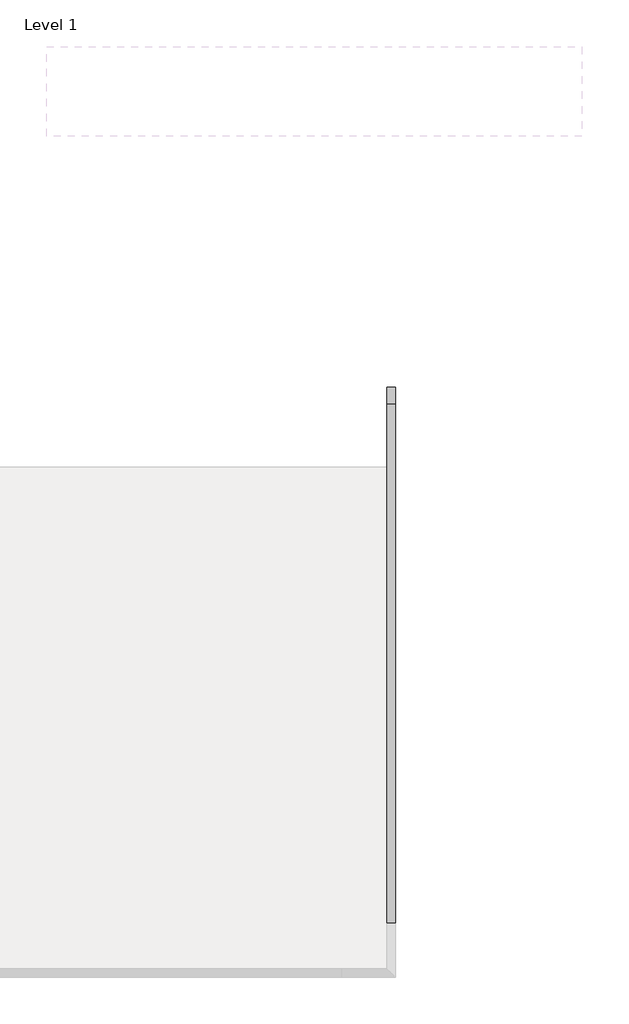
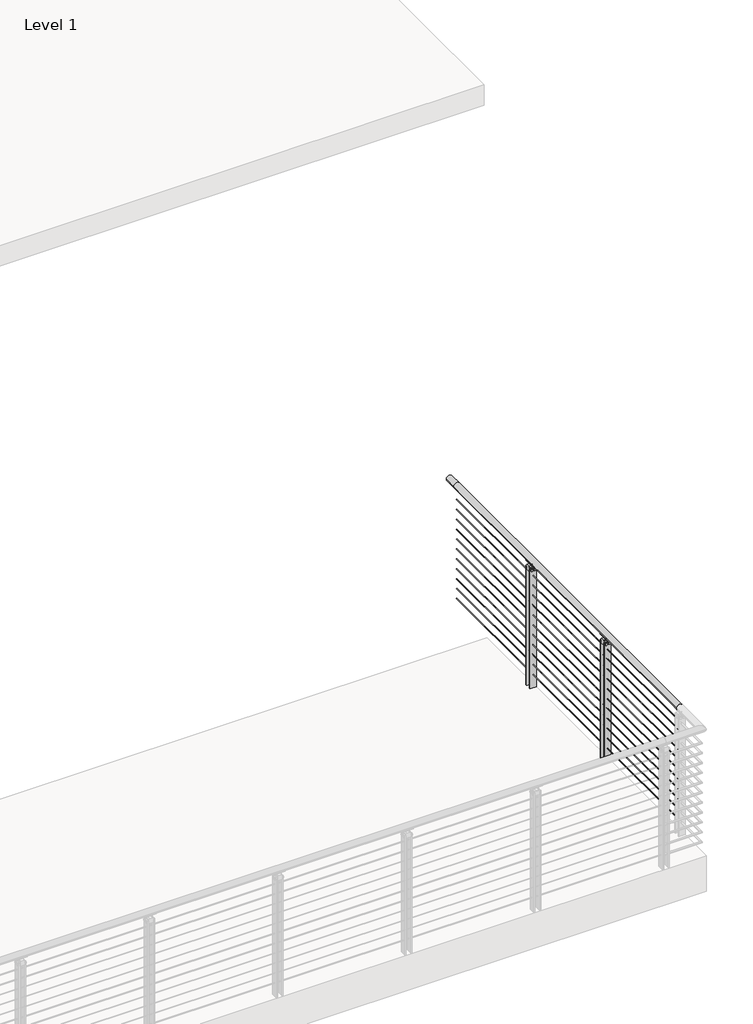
# One storey, part 19 of 36: 1 railing.
"""IFC4 building model written with IfcOpenShell, lengths in millimetres."""

from ifc_helpers import new_model, si_unit, point, frame, frame_2d, origin, origin_with_axes, place, context, project, spatial, polyline, circle_curve, trimmed, segment, composite_curve, outline, extrude, element, save
from ifc_brep_helpers import plane_surface, cylinder_surface, revolved_surface, advanced_brep

model = new_model("IFC4")

# Units and contexts
model_context = context("Model", 3, world=origin())
ifc_project = project(units=[si_unit("LENGTHUNIT", "METRE", prefix="MILLI")], contexts=[model_context])

# Site, building, storey
site = spatial("IfcSite", under=ifc_project)
building = spatial("IfcBuilding", under=site)
storey = spatial("IfcBuildingStorey", under=building, Name="Level 1", Elevation=0.0)

# Railing
placement = place(None, origin())
element("IfcRailing", 1, ObjectType="VIVA-BLADE-Cable-Weld Mount-Straight", at=placement, inside=storey, context=model_context, shape_type="SolidModel", body=[
    advanced_brep(
    [(45346.7868903, -56866.9334719, 1054.1), (45295.9868903, -56866.9334719, 1054.1), (45346.7868903, -53818.9334719, 1054.1), (45295.9868903, -53818.9334719, 1054.1), (45346.7868903, -53717.3334719, 1054.1), (45295.9868903, -53717.3334719, 1054.1)],
    [
        (0, 1, circle_curve(frame((45321.3868903, -56866.9334719, 1054.1), z_axis=(0.0, -1.0, 0.0), x_axis=(-1.0, 0.0, 0.0)), 25.4)),
        (1, 0, circle_curve(frame((45321.3868903, -56866.9334719, 1054.1), z_axis=(0.0, -1.0, 0.0), x_axis=(-1.0, 0.0, 0.0)), 25.4)),
        (0, 2),
        (2, 3, circle_curve(frame((45321.3868903, -53818.9334719, 1054.1), z_axis=(0.0, -1.0, 0.0), x_axis=(-1.0, 0.0, 0.0)), 25.4)),
        (3, 1),
        (3, 2, circle_curve(frame((45321.3868903, -53818.9334719, 1054.1), z_axis=(0.0, -1.0, 0.0), x_axis=(-1.0, 0.0, 0.0)), 25.4)),
        (4, 5, circle_curve(frame((45321.3868903, -53717.3334719, 1054.1), z_axis=(0.0, 1.0, 0.0), x_axis=(-1.0, 0.0, 0.0)), 25.4)),
        (5, 4, circle_curve(frame((45321.3868903, -53717.3334719, 1054.1), z_axis=(0.0, 1.0, 0.0), x_axis=(-1.0, 0.0, 0.0)), 25.4)),
        (2, 4),
        (5, 3),
    ],
    [
        plane_surface(frame((45321.3868903, -56866.9334719, 1079.5), z_axis=(0.0, -1.0, 0.0), x_axis=(0.0, 0.0, 1.0))),
        cylinder_surface(frame((45321.3868903, -56866.9334719, 1054.1), z_axis=(0.0, -1.0, 0.0), x_axis=(-1.0, 0.0, 0.0)), 25.4),
        plane_surface(frame((45321.3868903, -53717.3334719, 1079.5), z_axis=(0.0, 1.0, 0.0), x_axis=(0.0, 0.0, 1.0))),
        cylinder_surface(frame((45321.3868903, -53818.9334719, 1054.1), z_axis=(0.0, -1.0, 0.0), x_axis=(-1.0, 0.0, 0.0)), 25.4),
    ],
    [
        (0, [[1, 2]]),
        (1, [[-1, 3, 4, 5]]),
        (1, [[-2, -5, 6, -3]]),
        (2, [[7, 8]]),
        (3, [[-4, 9, -8, 10]]),
        (3, [[-6, -10, -7, -9]]),
    ],
),
    extrude(outline(composite_curve([segment(trimmed(circle_curve(frame_2d((937.4124, 45321.3868903)), 2.3876), [point((937.4124, 45318.9992903))], [point((937.4124, 45323.7744903))], False, "CARTESIAN"), True, "CONTINUOUS"), segment(trimmed(circle_curve(frame_2d((937.4124, 45321.3868903)), 2.3876), [point((937.4124, 45323.7744903))], [point((937.4124, 45318.9992903))], False, "CARTESIAN"), True, "CONTINUOUS")], self_intersect=False)), frame((0.0, -56866.9334719, 0.0), z_axis=(0.0, 1.0, 0.0), x_axis=(0.0, 0.0, 1.0)), (0.0, 0.0, 1.0), 3048.0),
    extrude(outline(composite_curve([segment(trimmed(circle_curve(frame_2d((854.8624, 45321.3868903)), 2.3876), [point((854.8624, 45318.9992903))], [point((854.8624, 45323.7744903))], False, "CARTESIAN"), True, "CONTINUOUS"), segment(trimmed(circle_curve(frame_2d((854.8624, 45321.3868903)), 2.3876), [point((854.8624, 45323.7744903))], [point((854.8624, 45318.9992903))], False, "CARTESIAN"), True, "CONTINUOUS")], self_intersect=False)), frame((0.0, -56866.9334719, 0.0), z_axis=(0.0, 1.0, 0.0), x_axis=(0.0, 0.0, 1.0)), (0.0, 0.0, 1.0), 3048.0),
    extrude(outline(composite_curve([segment(trimmed(circle_curve(frame_2d((772.3124, 45321.3868903)), 2.3876), [point((772.3124, 45318.9992903))], [point((772.3124, 45323.7744903))], False, "CARTESIAN"), True, "CONTINUOUS"), segment(trimmed(circle_curve(frame_2d((772.3124, 45321.3868903)), 2.3876), [point((772.3124, 45323.7744903))], [point((772.3124, 45318.9992903))], False, "CARTESIAN"), True, "CONTINUOUS")], self_intersect=False)), frame((0.0, -56866.9334719, 0.0), z_axis=(0.0, 1.0, 0.0), x_axis=(0.0, 0.0, 1.0)), (0.0, 0.0, 1.0), 3048.0),
    extrude(outline(composite_curve([segment(trimmed(circle_curve(frame_2d((689.7624, 45321.3868903)), 2.3876), [point((689.7624, 45318.9992903))], [point((689.7624, 45323.7744903))], False, "CARTESIAN"), True, "CONTINUOUS"), segment(trimmed(circle_curve(frame_2d((689.7624, 45321.3868903)), 2.3876), [point((689.7624, 45323.7744903))], [point((689.7624, 45318.9992903))], False, "CARTESIAN"), True, "CONTINUOUS")], self_intersect=False)), frame((0.0, -56866.9334719, 0.0), z_axis=(0.0, 1.0, 0.0), x_axis=(0.0, 0.0, 1.0)), (0.0, 0.0, 1.0), 3048.0),
    extrude(outline(composite_curve([segment(trimmed(circle_curve(frame_2d((607.2124, 45321.3868903)), 2.3876), [point((607.2124, 45318.9992903))], [point((607.2124, 45323.7744903))], False, "CARTESIAN"), True, "CONTINUOUS"), segment(trimmed(circle_curve(frame_2d((607.2124, 45321.3868903)), 2.3876), [point((607.2124, 45323.7744903))], [point((607.2124, 45318.9992903))], False, "CARTESIAN"), True, "CONTINUOUS")], self_intersect=False)), frame((0.0, -56866.9334719, 0.0), z_axis=(0.0, 1.0, 0.0), x_axis=(0.0, 0.0, 1.0)), (0.0, 0.0, 1.0), 3048.0),
    extrude(outline(composite_curve([segment(trimmed(circle_curve(frame_2d((524.6624, 45321.3868903)), 2.3876), [point((524.6624, 45318.9992903))], [point((524.6624, 45323.7744903))], False, "CARTESIAN"), True, "CONTINUOUS"), segment(trimmed(circle_curve(frame_2d((524.6624, 45321.3868903)), 2.3876), [point((524.6624, 45323.7744903))], [point((524.6624, 45318.9992903))], False, "CARTESIAN"), True, "CONTINUOUS")], self_intersect=False)), frame((0.0, -56866.9334719, 0.0), z_axis=(0.0, 1.0, 0.0), x_axis=(0.0, 0.0, 1.0)), (0.0, 0.0, 1.0), 3048.0),
    extrude(outline(composite_curve([segment(trimmed(circle_curve(frame_2d((442.1124, 45321.3868903)), 2.3876), [point((442.1124, 45318.9992903))], [point((442.1124, 45323.7744903))], False, "CARTESIAN"), True, "CONTINUOUS"), segment(trimmed(circle_curve(frame_2d((442.1124, 45321.3868903)), 2.3876), [point((442.1124, 45323.7744903))], [point((442.1124, 45318.9992903))], False, "CARTESIAN"), True, "CONTINUOUS")], self_intersect=False)), frame((0.0, -56866.9334719, 0.0), z_axis=(0.0, 1.0, 0.0), x_axis=(0.0, 0.0, 1.0)), (0.0, 0.0, 1.0), 3048.0),
    extrude(outline(composite_curve([segment(trimmed(circle_curve(frame_2d((359.5624, 45321.3868903)), 2.3876), [point((359.5624, 45318.9992903))], [point((359.5624, 45323.7744903))], False, "CARTESIAN"), True, "CONTINUOUS"), segment(trimmed(circle_curve(frame_2d((359.5624, 45321.3868903)), 2.3876), [point((359.5624, 45323.7744903))], [point((359.5624, 45318.9992903))], False, "CARTESIAN"), True, "CONTINUOUS")], self_intersect=False)), frame((0.0, -56866.9334719, 0.0), z_axis=(0.0, 1.0, 0.0), x_axis=(0.0, 0.0, 1.0)), (0.0, 0.0, 1.0), 3048.0),
    extrude(outline(composite_curve([segment(trimmed(circle_curve(frame_2d((277.0124, 45321.3868903)), 2.3876), [point((277.0124, 45318.9992903))], [point((277.0124, 45323.7744903))], False, "CARTESIAN"), True, "CONTINUOUS"), segment(trimmed(circle_curve(frame_2d((277.0124, 45321.3868903)), 2.3876), [point((277.0124, 45323.7744903))], [point((277.0124, 45318.9992903))], False, "CARTESIAN"), True, "CONTINUOUS")], self_intersect=False)), frame((0.0, -56866.9334719, 0.0), z_axis=(0.0, 1.0, 0.0), x_axis=(0.0, 0.0, 1.0)), (0.0, 0.0, 1.0), 3048.0),
    extrude(outline(composite_curve([segment(trimmed(circle_curve(frame_2d((194.4624, 45321.3868903)), 2.3876), [point((194.4624, 45318.9992903))], [point((194.4624, 45323.7744903))], False, "CARTESIAN"), True, "CONTINUOUS"), segment(trimmed(circle_curve(frame_2d((194.4624, 45321.3868903)), 2.3876), [point((194.4624, 45323.7744903))], [point((194.4624, 45318.9992903))], False, "CARTESIAN"), True, "CONTINUOUS")], self_intersect=False)), frame((0.0, -56866.9334719, 0.0), z_axis=(0.0, 1.0, 0.0), x_axis=(0.0, 0.0, 1.0)), (0.0, 0.0, 1.0), 3048.0),
    extrude(outline(composite_curve([segment(trimmed(circle_curve(frame_2d((111.9124, 45321.3868903)), 2.3876), [point((111.9124, 45318.9992903))], [point((111.9124, 45323.7744903))], False, "CARTESIAN"), True, "CONTINUOUS"), segment(trimmed(circle_curve(frame_2d((111.9124, 45321.3868903)), 2.3876), [point((111.9124, 45323.7744903))], [point((111.9124, 45318.9992903))], False, "CARTESIAN"), True, "CONTINUOUS")], self_intersect=False)), frame((0.0, -56866.9334719, 0.0), z_axis=(0.0, 1.0, 0.0), x_axis=(0.0, 0.0, 1.0)), (0.0, 0.0, 1.0), 3048.0),
    advanced_brep(
    [(45308.6267667, -54789.6960719, 1032.0967655), (45333.4988312, -54789.6960719, 1031.9535285), (45336.3077615, -54789.6960719, 1027.1267745), (45304.7908693, -54789.6960719, 1027.707533), (45308.6267667, -54880.1708719, 1032.0967655), (45304.7908693, -54880.1708719, 1027.707533), (45336.4215549, -54880.1708719, 1027.1893964), (45333.5858033, -54880.1708719, 1032.0018447)],
    [
        (0, 1, circle_curve(frame((45321.1905696, -54789.6960719, 1054.2115898), z_axis=(0.0, -1.0, 0.0), x_axis=(-1.0, 0.0, 0.0)), 25.4345159)),
        (1, 2, circle_curve(frame((45334.8304565, -54789.6960719, 1029.4993599), z_axis=(0.0, 1.0, 0.0), x_axis=(-1.0, 0.0, 0.0)), 2.7949225)),
        (2, 3, circle_curve(frame((45321.0571065, -54789.6960719, 1054.9742164), z_axis=(0.0, 1.0, 0.0), x_axis=(-1.0, 0.0, 0.0)), 31.75)),
        (3, 0, circle_curve(frame((45307.079209, -54789.6960719, 1029.5784521), z_axis=(0.0, 1.0, 0.0), x_axis=(-1.0, 0.0, 0.0)), 2.9558141)),
        (4, 5, circle_curve(frame((45307.079209, -54880.1708719, 1029.5784521), z_axis=(0.0, -1.0, 0.0), x_axis=(-1.0, 0.0, 0.0)), 2.9558141)),
        (5, 6, circle_curve(frame((45321.0571065, -54880.1708719, 1054.9742164), z_axis=(0.0, -1.0, 0.0), x_axis=(-1.0, 0.0, 0.0)), 31.75)),
        (6, 7, circle_curve(frame((45334.8304565, -54880.1708719, 1029.4993599), z_axis=(0.0, -1.0, 0.0), x_axis=(-1.0, 0.0, 0.0)), 2.7949225)),
        (7, 4, circle_curve(frame((45321.1905696, -54880.1708719, 1054.2115898), z_axis=(0.0, 1.0, 0.0), x_axis=(-1.0, 0.0, 0.0)), 25.4345159)),
        (0, 4),
        (7, 1),
        (6, 2),
        (5, 3),
    ],
    [
        plane_surface(frame((45295.7560537, -54789.6960719, 1054.2115898), z_axis=(0.0, 1.0, 0.0), x_axis=(0.0, 0.0, -1.0))),
        plane_surface(frame((45295.7560537, -54880.1708719, 1054.2115898), z_axis=(0.0, -1.0, 0.0), x_axis=(0.0, 0.0, 1.0))),
        revolved_surface(polyline([(45295.7560537, -54880.1708719, 1054.2115898), (45295.7560537, -54789.6960719, 1054.2115898)]), (45321.1905696, -54880.1708719, 1054.2115898), (0.0, -1.0, 0.0)),
        cylinder_surface(frame((45334.8304565, -54880.1708719, 1029.4993599), z_axis=(0.0, 1.0, 0.0), x_axis=(-1.0, 0.0, 0.0)), 2.7949225),
        cylinder_surface(frame((45321.0571065, -54880.1708719, 1054.9742164), z_axis=(0.0, 1.0, 0.0), x_axis=(-1.0, 0.0, 0.0)), 31.75),
        cylinder_surface(frame((45307.079209, -54880.1708719, 1029.5784521), z_axis=(0.0, 1.0, 0.0), x_axis=(-1.0, 0.0, 0.0)), 2.9558141),
    ],
    [
        (0, [[1, 2, 3, 4]]),
        (1, [[5, 6, 7, 8]]),
        (2, [[-1, 9, -8, 10]]),
        (3, [[-2, -10, -7, 11]]),
        (4, [[-3, -11, -6, 12]]),
        (5, [[-4, -12, -5, -9]]),
    ],
),
    advanced_brep(
    [(45318.8468903, -54822.2334719, 1014.4125), (45318.8468903, -54847.6334719, 1014.4125), (45318.8468903, -54862.0013867, 1028.7804149), (45318.8468903, -54807.865557, 1028.7804149), (45323.9268903, -54822.2334719, 1014.4125), (45323.9268903, -54807.865557, 1028.7804149), (45323.9268903, -54862.0013867, 1028.7804149), (45323.9268903, -54847.6334719, 1014.4125)],
    [
        (0, 1),
        (1, 2, circle_curve(frame((45318.8468903, -54862.0013867, 1014.4125), z_axis=(1.0, 0.0, 0.0), x_axis=(0.0, -1.0, 0.0)), 14.3679149)),
        (2, 3),
        (3, 0, circle_curve(frame((45318.8468903, -54807.865557, 1014.4125), z_axis=(1.0, 0.0, 0.0), x_axis=(0.0, -1.0, 0.0)), 14.3679149)),
        (4, 5, circle_curve(frame((45323.9268903, -54807.865557, 1014.4125), z_axis=(-1.0, 0.0, 0.0), x_axis=(0.0, -1.0, 0.0)), 14.3679149)),
        (5, 6),
        (6, 7, circle_curve(frame((45323.9268903, -54862.0013867, 1014.4125), z_axis=(-1.0, 0.0, 0.0), x_axis=(0.0, -1.0, 0.0)), 14.3679149)),
        (7, 4),
        (0, 4),
        (7, 1),
        (6, 2),
        (5, 3),
    ],
    [
        plane_surface(frame((45318.8468903, -54847.6334719, 1014.4125), z_axis=(-1.0, 0.0, 0.0), x_axis=(0.0, -1.0, 0.0))),
        plane_surface(frame((45323.9268903, -54847.6334719, 1014.4125), z_axis=(1.0, 0.0, 0.0), x_axis=(0.0, 1.0, 0.0))),
        plane_surface(frame((45318.8468903, -54822.2334719, 1014.4125), z_axis=(0.0, 0.0, -1.0), x_axis=(1.0, 0.0, 0.0))),
        revolved_surface(polyline([(45323.9268903, -54876.3693016, 1014.4125), (45318.8468903, -54876.3693016, 1014.4125)]), (45323.9268903, -54862.0013867, 1014.4125), (1.0, 0.0, 0.0)),
        plane_surface(frame((45318.8468903, -54862.0013867, 1028.7804149), z_axis=(0.0, 0.0, 1.0), x_axis=(1.0, 0.0, 0.0))),
        revolved_surface(polyline([(45323.9268903, -54822.2334719, 1014.4125), (45318.8468903, -54822.2334719, 1014.4125)]), (45323.9268903, -54807.865557, 1014.4125), (1.0, 0.0, 0.0)),
    ],
    [
        (0, [[1, 2, 3, 4]]),
        (1, [[5, 6, 7, 8]]),
        (2, [[-1, 9, -8, 10]]),
        (3, [[-2, -10, -7, 11]]),
        (4, [[-3, -11, -6, 12]]),
        (5, [[-4, -12, -5, -9]]),
    ],
),
    extrude(outline(polyline([(45295.9870937, -54862.0083075), (45295.9870937, -54853.9834719), (45346.7894183, -54853.9834719), (45346.7894183, -54862.0083075), (45295.9870937, -54862.0083075)])), origin_with_axes(), (0.0, 0.0, 1.0), 996.95),
    extrude(outline(composite_curve([segment(trimmed(circle_curve(frame_2d((986.0416929, 45334.0893673)), 8.89), [point((986.0416929, 45342.9793673))], [point((986.0416929, 45325.1993673))], False, "CARTESIAN"), True, "CONTINUOUS"), segment(trimmed(circle_curve(frame_2d((986.0416929, 45334.0893673)), 8.89), [point((986.0416929, 45325.1993673))], [point((986.0416929, 45342.9793673))], False, "CARTESIAN"), True, "CONTINUOUS")], self_intersect=False)), frame((0.0, -54866.6834719, 0.0), z_axis=(0.0, 1.0, 0.0), x_axis=(0.0, 0.0, 1.0)), (0.0, 0.0, 1.0), 63.4880631),
    extrude(outline(composite_curve([segment(trimmed(circle_curve(frame_2d((986.0416929, 45308.6894693)), 8.89), [point((986.0416929, 45317.5794693))], [point((986.0416929, 45299.7994693))], False, "CARTESIAN"), True, "CONTINUOUS"), segment(trimmed(circle_curve(frame_2d((986.0416929, 45308.6894693)), 8.89), [point((986.0416929, 45299.7994693))], [point((986.0416929, 45317.5794693))], False, "CARTESIAN"), True, "CONTINUOUS")], self_intersect=False)), frame((0.0, -54866.6834719, 0.0), z_axis=(0.0, 1.0, 0.0), x_axis=(0.0, 0.0, 1.0)), (0.0, 0.0, 1.0), 63.4880631),
    extrude(outline(polyline([(-54853.9834719, 974.7123), (-54853.9834719, 1008.0625), (-54847.6334719, 1014.4125), (-54822.2334719, 1014.4125), (-54815.8834719, 1008.0625), (-54815.8834719, 974.7123), (-54853.9834719, 974.7123)])), frame((45295.9868903, 0.0, 0.0), z_axis=(1.0, 0.0, 0.0), x_axis=(0.0, 1.0, 0.0)), (0.0, 0.0, 1.0), 50.8025279),
    extrude(outline(polyline([(45295.9870937, -54815.8835099), (45295.9870937, -54807.8825099), (45346.7894183, -54807.8825099), (45346.7894183, -54815.8835099), (45295.9870937, -54815.8835099)])), origin_with_axes(), (0.0, 0.0, 1.0), 996.95),
    advanced_brep(
    [(45308.6267667, -55805.6960719, 1032.0967655), (45333.4988312, -55805.6960719, 1031.9535285), (45336.3077615, -55805.6960719, 1027.1267745), (45304.7908693, -55805.6960719, 1027.707533), (45308.6267667, -55896.1708719, 1032.0967655), (45304.7908693, -55896.1708719, 1027.707533), (45336.4215549, -55896.1708719, 1027.1893964), (45333.5858033, -55896.1708719, 1032.0018447)],
    [
        (0, 1, circle_curve(frame((45321.1905696, -55805.6960719, 1054.2115898), z_axis=(0.0, -1.0, 0.0), x_axis=(-1.0, 0.0, 0.0)), 25.4345159)),
        (1, 2, circle_curve(frame((45334.8304565, -55805.6960719, 1029.4993599), z_axis=(0.0, 1.0, 0.0), x_axis=(-1.0, 0.0, 0.0)), 2.7949225)),
        (2, 3, circle_curve(frame((45321.0571065, -55805.6960719, 1054.9742164), z_axis=(0.0, 1.0, 0.0), x_axis=(-1.0, 0.0, 0.0)), 31.75)),
        (3, 0, circle_curve(frame((45307.079209, -55805.6960719, 1029.5784521), z_axis=(0.0, 1.0, 0.0), x_axis=(-1.0, 0.0, 0.0)), 2.9558141)),
        (4, 5, circle_curve(frame((45307.079209, -55896.1708719, 1029.5784521), z_axis=(0.0, -1.0, 0.0), x_axis=(-1.0, 0.0, 0.0)), 2.9558141)),
        (5, 6, circle_curve(frame((45321.0571065, -55896.1708719, 1054.9742164), z_axis=(0.0, -1.0, 0.0), x_axis=(-1.0, 0.0, 0.0)), 31.75)),
        (6, 7, circle_curve(frame((45334.8304565, -55896.1708719, 1029.4993599), z_axis=(0.0, -1.0, 0.0), x_axis=(-1.0, 0.0, 0.0)), 2.7949225)),
        (7, 4, circle_curve(frame((45321.1905696, -55896.1708719, 1054.2115898), z_axis=(0.0, 1.0, 0.0), x_axis=(-1.0, 0.0, 0.0)), 25.4345159)),
        (0, 4),
        (7, 1),
        (6, 2),
        (5, 3),
    ],
    [
        plane_surface(frame((45295.7560537, -55805.6960719, 1054.2115898), z_axis=(0.0, 1.0, 0.0), x_axis=(0.0, 0.0, -1.0))),
        plane_surface(frame((45295.7560537, -55896.1708719, 1054.2115898), z_axis=(0.0, -1.0, 0.0), x_axis=(0.0, 0.0, 1.0))),
        revolved_surface(polyline([(45295.7560537, -55896.1708719, 1054.2115898), (45295.7560537, -55805.6960719, 1054.2115898)]), (45321.1905696, -55896.1708719, 1054.2115898), (0.0, -1.0, 0.0)),
        cylinder_surface(frame((45334.8304565, -55896.1708719, 1029.4993599), z_axis=(0.0, 1.0, 0.0), x_axis=(-1.0, 0.0, 0.0)), 2.7949225),
        cylinder_surface(frame((45321.0571065, -55896.1708719, 1054.9742164), z_axis=(0.0, 1.0, 0.0), x_axis=(-1.0, 0.0, 0.0)), 31.75),
        cylinder_surface(frame((45307.079209, -55896.1708719, 1029.5784521), z_axis=(0.0, 1.0, 0.0), x_axis=(-1.0, 0.0, 0.0)), 2.9558141),
    ],
    [
        (0, [[1, 2, 3, 4]]),
        (1, [[5, 6, 7, 8]]),
        (2, [[-1, 9, -8, 10]]),
        (3, [[-2, -10, -7, 11]]),
        (4, [[-3, -11, -6, 12]]),
        (5, [[-4, -12, -5, -9]]),
    ],
),
    advanced_brep(
    [(45318.8468903, -55838.2334719, 1014.4125), (45318.8468903, -55863.6334719, 1014.4125), (45318.8468903, -55878.0013867, 1028.7804149), (45318.8468903, -55823.865557, 1028.7804149), (45323.9268903, -55838.2334719, 1014.4125), (45323.9268903, -55823.865557, 1028.7804149), (45323.9268903, -55878.0013867, 1028.7804149), (45323.9268903, -55863.6334719, 1014.4125)],
    [
        (0, 1),
        (1, 2, circle_curve(frame((45318.8468903, -55878.0013867, 1014.4125), z_axis=(1.0, 0.0, 0.0), x_axis=(0.0, -1.0, 0.0)), 14.3679149)),
        (2, 3),
        (3, 0, circle_curve(frame((45318.8468903, -55823.865557, 1014.4125), z_axis=(1.0, 0.0, 0.0), x_axis=(0.0, -1.0, 0.0)), 14.3679149)),
        (4, 5, circle_curve(frame((45323.9268903, -55823.865557, 1014.4125), z_axis=(-1.0, 0.0, 0.0), x_axis=(0.0, -1.0, 0.0)), 14.3679149)),
        (5, 6),
        (6, 7, circle_curve(frame((45323.9268903, -55878.0013867, 1014.4125), z_axis=(-1.0, 0.0, 0.0), x_axis=(0.0, -1.0, 0.0)), 14.3679149)),
        (7, 4),
        (0, 4),
        (7, 1),
        (6, 2),
        (5, 3),
    ],
    [
        plane_surface(frame((45318.8468903, -55863.6334719, 1014.4125), z_axis=(-1.0, 0.0, 0.0), x_axis=(0.0, -1.0, 0.0))),
        plane_surface(frame((45323.9268903, -55863.6334719, 1014.4125), z_axis=(1.0, 0.0, 0.0), x_axis=(0.0, 1.0, 0.0))),
        plane_surface(frame((45318.8468903, -55838.2334719, 1014.4125), z_axis=(0.0, 0.0, -1.0), x_axis=(1.0, 0.0, 0.0))),
        revolved_surface(polyline([(45323.9268903, -55892.3693016, 1014.4125), (45318.8468903, -55892.3693016, 1014.4125)]), (45323.9268903, -55878.0013867, 1014.4125), (1.0, 0.0, 0.0)),
        plane_surface(frame((45318.8468903, -55878.0013867, 1028.7804149), z_axis=(0.0, 0.0, 1.0), x_axis=(1.0, 0.0, 0.0))),
        revolved_surface(polyline([(45323.9268903, -55838.2334719, 1014.4125), (45318.8468903, -55838.2334719, 1014.4125)]), (45323.9268903, -55823.865557, 1014.4125), (1.0, 0.0, 0.0)),
    ],
    [
        (0, [[1, 2, 3, 4]]),
        (1, [[5, 6, 7, 8]]),
        (2, [[-1, 9, -8, 10]]),
        (3, [[-2, -10, -7, 11]]),
        (4, [[-3, -11, -6, 12]]),
        (5, [[-4, -12, -5, -9]]),
    ],
),
    extrude(outline(polyline([(45295.9870937, -55878.0083075), (45295.9870937, -55869.9834719), (45346.7894183, -55869.9834719), (45346.7894183, -55878.0083075), (45295.9870937, -55878.0083075)])), origin_with_axes(), (0.0, 0.0, 1.0), 996.95),
    extrude(outline(composite_curve([segment(trimmed(circle_curve(frame_2d((986.0416929, 45334.0893673)), 8.89), [point((986.0416929, 45342.9793673))], [point((986.0416929, 45325.1993673))], False, "CARTESIAN"), True, "CONTINUOUS"), segment(trimmed(circle_curve(frame_2d((986.0416929, 45334.0893673)), 8.89), [point((986.0416929, 45325.1993673))], [point((986.0416929, 45342.9793673))], False, "CARTESIAN"), True, "CONTINUOUS")], self_intersect=False)), frame((0.0, -55882.6834719, 0.0), z_axis=(0.0, 1.0, 0.0), x_axis=(0.0, 0.0, 1.0)), (0.0, 0.0, 1.0), 63.4880631),
    extrude(outline(composite_curve([segment(trimmed(circle_curve(frame_2d((986.0416929, 45308.6894693)), 8.89), [point((986.0416929, 45317.5794693))], [point((986.0416929, 45299.7994693))], False, "CARTESIAN"), True, "CONTINUOUS"), segment(trimmed(circle_curve(frame_2d((986.0416929, 45308.6894693)), 8.89), [point((986.0416929, 45299.7994693))], [point((986.0416929, 45317.5794693))], False, "CARTESIAN"), True, "CONTINUOUS")], self_intersect=False)), frame((0.0, -55882.6834719, 0.0), z_axis=(0.0, 1.0, 0.0), x_axis=(0.0, 0.0, 1.0)), (0.0, 0.0, 1.0), 63.4880631),
    extrude(outline(polyline([(-55869.9834719, 974.7123), (-55869.9834719, 1008.0625), (-55863.6334719, 1014.4125), (-55838.2334719, 1014.4125), (-55831.8834719, 1008.0625), (-55831.8834719, 974.7123), (-55869.9834719, 974.7123)])), frame((45295.9868903, 0.0, 0.0), z_axis=(1.0, 0.0, 0.0), x_axis=(0.0, 1.0, 0.0)), (0.0, 0.0, 1.0), 50.8025279),
    extrude(outline(polyline([(45295.9870937, -55831.8835099), (45295.9870937, -55823.8825099), (45346.7894183, -55823.8825099), (45346.7894183, -55831.8835099), (45295.9870937, -55831.8835099)])), origin_with_axes(), (0.0, 0.0, 1.0), 996.95),
])

save(model, "model.ifc")
